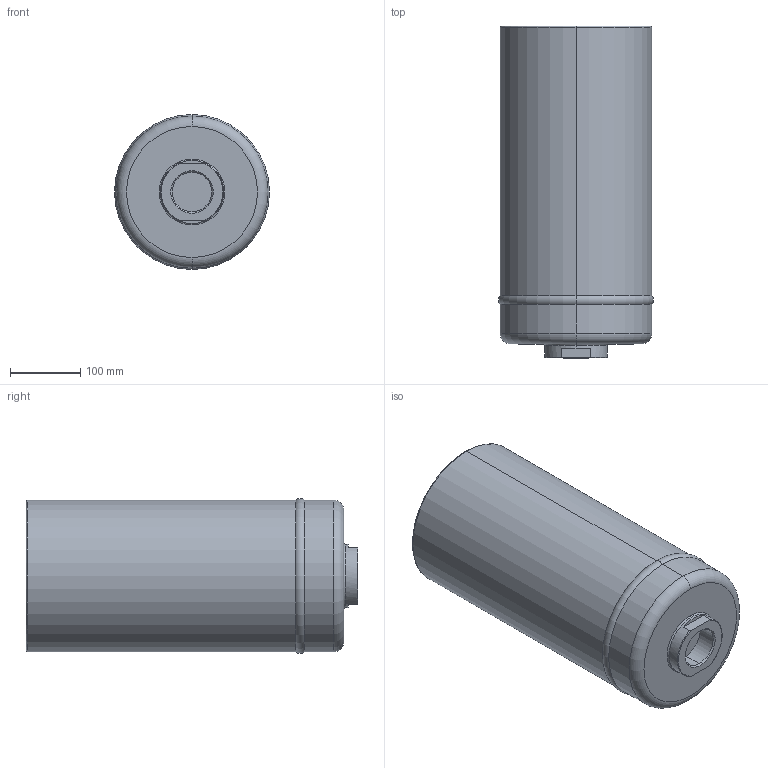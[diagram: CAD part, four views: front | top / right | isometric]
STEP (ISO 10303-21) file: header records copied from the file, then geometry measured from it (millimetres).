
FILE_DESCRIPTION (( 'STEP AP214' ), '1' );
FILE_NAME ('U100A10X1-AI.STEP', '2025-05-28T10:08:43', ( '' ), ( '' ), 'SwSTEP 2.0', 'SolidWorks 2024', '' );
FILE_SCHEMA (( 'AUTOMOTIVE_DESIGN' ));
Length unit declared in the file: millimetre
Products named in the file (1): U100A10X1-AI
Bounding box: 221.3 x 474 x 221.3 mm (x, y, z)
Volume: 15847976.2 mm3; surface area: 428839.8 mm2
Topology: 7 solids, 7 shells, 260 faces, 579 edges, 344 vertices
Faces by surface type: plane 106, cylinder 73, torus 45, cone 32, sphere 4
Entity records: 7340 total; most frequent: DIRECTION 1363, CARTESIAN_POINT 1342, ORIENTED_EDGE 1134, EDGE_CURVE 567, AXIS2_PLACEMENT_3D 555, VERTEX_POINT 344, EDGE_LOOP 299, CIRCLE 294
